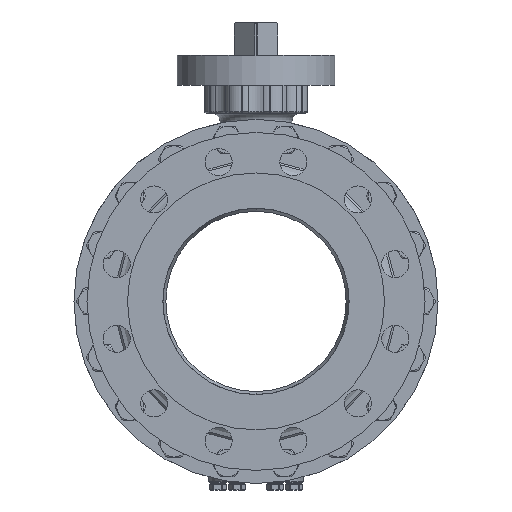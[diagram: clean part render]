
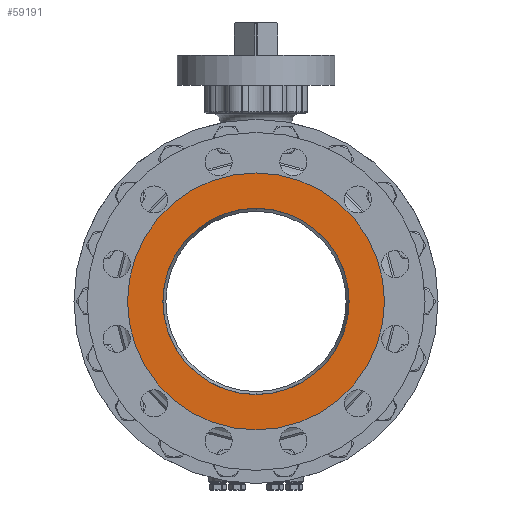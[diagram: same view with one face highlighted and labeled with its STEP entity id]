
A CAD part, left-side view. The second image highlights one B-rep face of the part: STEP entity #59191.
In plain terms, the highlighted planar face has unit normal (-1, 0, 0).
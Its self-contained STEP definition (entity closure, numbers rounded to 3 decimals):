
#4181=CARTESIAN_POINT('',(-251.,0.,0.));
#4182=DIRECTION('',(1.,0.,0.));
#4183=DIRECTION('',(0.,0.,1.));
#4184=AXIS2_PLACEMENT_3D('',#4181,#4182,#4183);
#4186=CARTESIAN_POINT('',(-251.,0.,0.));
#4187=DIRECTION('',(1.,0.,0.));
#4188=DIRECTION('',(0.,0.,-1.));
#4189=AXIS2_PLACEMENT_3D('',#4186,#4187,#4188);
#4191=CARTESIAN_POINT('',(-251.,0.,0.));
#4192=DIRECTION('',(1.,0.,0.));
#4193=DIRECTION('',(0.,0.,1.));
#4194=AXIS2_PLACEMENT_3D('',#4191,#4192,#4193);
#4196=CARTESIAN_POINT('',(-251.,0.,0.));
#4197=DIRECTION('',(-1.,0.,0.));
#4198=DIRECTION('',(0.,0.,1.));
#4199=AXIS2_PLACEMENT_3D('',#4196,#4197,#4198);
#49070=CARTESIAN_POINT('',(-251.,0.,103.35));
#49072=VERTEX_POINT('',#49070);
#49074=CARTESIAN_POINT('',(-251.,0.,-103.35));
#49076=VERTEX_POINT('',#49074);
#49105=CARTESIAN_POINT('',(-251.,0.,142.5));
#49106=CARTESIAN_POINT('',(-251.,0.,-142.5));
#49107=VERTEX_POINT('',#49105);
#49108=VERTEX_POINT('',#49106);
#59175=CARTESIAN_POINT('',(-251.,0.,0.));
#59176=DIRECTION('',(-1.,0.,0.));
#59177=DIRECTION('',(0.,0.,-1.));
#59178=AXIS2_PLACEMENT_3D('',#59175,#59176,#59177);
#59179=PLANE('',#59178);
#59181=ORIENTED_EDGE('',*,*,#59180,.T.);
#59182=ORIENTED_EDGE('',*,*,#59165,.T.);
#59183=EDGE_LOOP('',(#59181,#59182));
#59184=FACE_OUTER_BOUND('',#59183,.F.);
#59186=ORIENTED_EDGE('',*,*,#59185,.F.);
#59188=ORIENTED_EDGE('',*,*,#59187,.T.);
#59189=EDGE_LOOP('',(#59186,#59188));
#59190=FACE_BOUND('',#59189,.F.);
#59191=ADVANCED_FACE('',(#59184,#59190),#59179,.T.);
#4185=CIRCLE('',#4184,142.5);
#4190=CIRCLE('',#4189,142.5);
#4195=CIRCLE('',#4194,103.35);
#4200=CIRCLE('',#4199,103.35);
#59165=EDGE_CURVE('',#49108,#49107,#4190,.T.);
#59180=EDGE_CURVE('',#49107,#49108,#4185,.T.);
#59185=EDGE_CURVE('',#49072,#49076,#4195,.T.);
#59187=EDGE_CURVE('',#49072,#49076,#4200,.T.);
